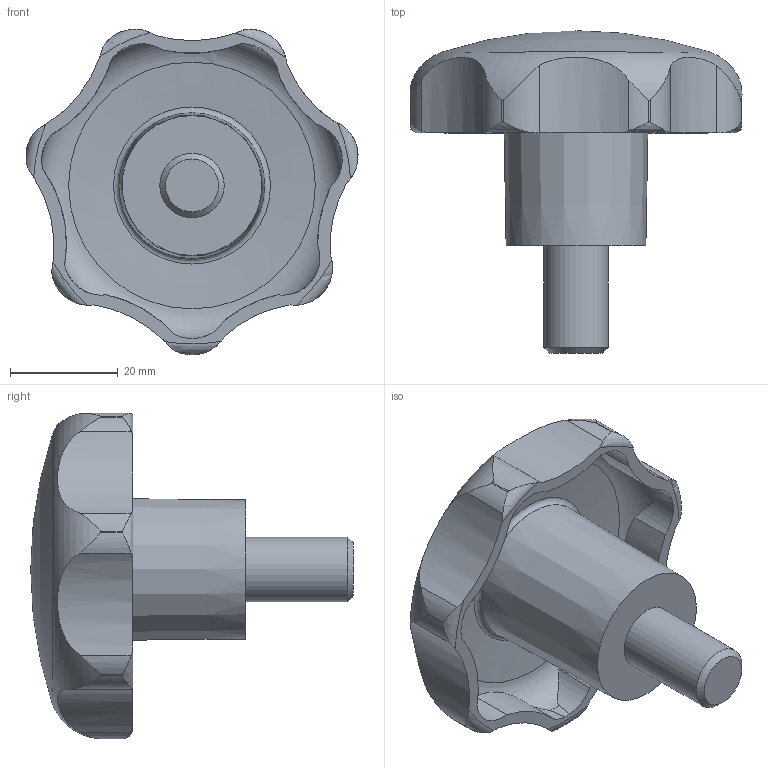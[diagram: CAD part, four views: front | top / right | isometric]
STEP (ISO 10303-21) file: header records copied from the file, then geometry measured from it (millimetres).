
FILE_DESCRIPTION( ( 'STEP AP203' ), '1' );
FILE_NAME( 'C:/Temp/Ganter_Step_05_03_2020/data/2_2/gn_6336_4/gn_6336_4_st/Star knob GN 6336.4-ST-63-M12-20.stp', '2020-03-05T12:07:43', ( 'License CC BY-ND 4.0' ), ( 'CADENAS' ), ' ', 'PARTsolutions', ' ' );
FILE_SCHEMA( ( 'CONFIG_CONTROL_DESIGN' ) );
Length unit declared in the file: millimetre
Products named in the file (1): _Star knob GN 6336.4-ST-63-M12-20
Bounding box: 61.76 x 60 x 60.57 mm (x, y, z)
Volume: 41390.8 mm3; surface area: 12447.9 mm2
Topology: 1 solids, 1 shells, 74 faces, 208 edges, 137 vertices
Faces by surface type: cylinder 50, torus 10, cone 10, plane 3, sphere 1
Full cylindrical faces by diameter (mm): 12 x1
Entity records: 3320 total; most frequent: CARTESIAN_POINT 1487, ORIENTED_EDGE 394, DIRECTION 350, EDGE_CURVE 197, AXIS2_PLACEMENT_3D 154, VERTEX_POINT 135, EDGE_LOOP 83, CIRCLE 79
